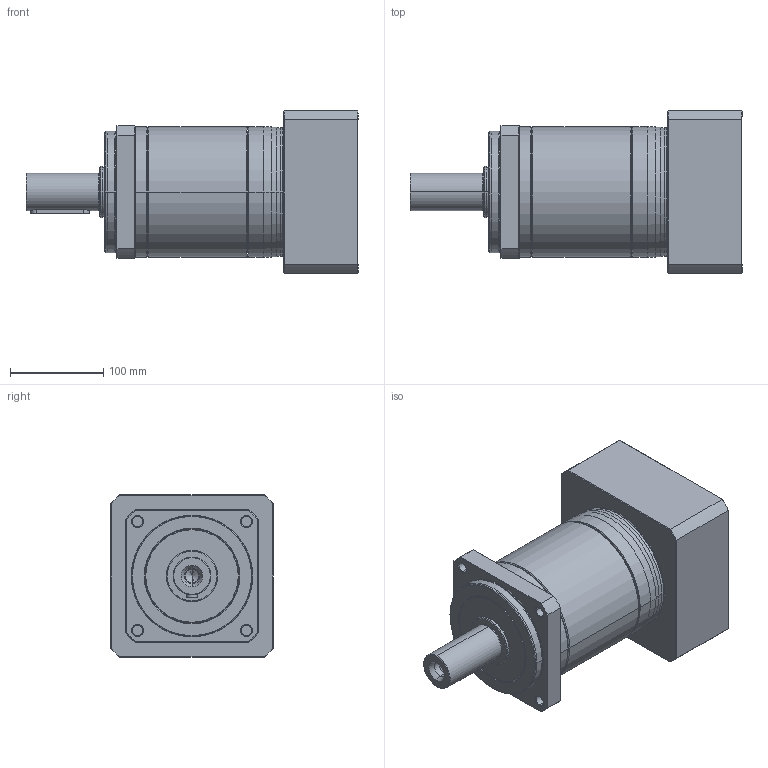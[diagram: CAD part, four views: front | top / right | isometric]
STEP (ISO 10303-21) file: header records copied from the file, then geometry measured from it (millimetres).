
FILE_DESCRIPTION((''),'2;1');
FILE_NAME('PA2-142_2ST_38-P0411900101_ASM','2016-05-11T',('d01943'),(''),'PRO/ENGINEER BY PARAMETRIC TECHNOLOGY CORPORATION, 2008410','PRO/ENGINEER BY PARAMETRIC TECHNOLOGY CORPORATION, 2008410','');
FILE_SCHEMA(('CONFIG_CONTROL_DESIGN'));
Length unit declared in the file: millimetre
Products named in the file (9): P1327510001; P0251500001; P1324500501; P0350500601; P0941505001; P0503900010; P0411900101; P1702600001; PA2-142_2ST_38-P0411900101_ASM
Assembly tree (8 placements, depth 2):
  PA2-142_2ST_38-P0411900101_ASM
    P1327510001
    P0251500001
    P1324500501
    P0350500601
    P0941505001
    P0503900010
    P0411900101
    P1702600001
Bounding box: 355.5 x 174 x 174 mm (x, y, z)
Volume: 3918885.6 mm3; surface area: 459670.9 mm2
Topology: 8 solids, 8 shells, 469 faces, 1024 edges, 590 vertices
Faces by surface type: cone 146, cylinder 133, plane 86, torus 86, bspline 18
Entity records: 17531 total; most frequent: CARTESIAN_POINT 6997, DIRECTION 2382, ORIENTED_EDGE 2008, AXIS2_PLACEMENT_3D 1015, EDGE_CURVE 1004, VERTEX_POINT 590, CIRCLE 547, EDGE_LOOP 532
